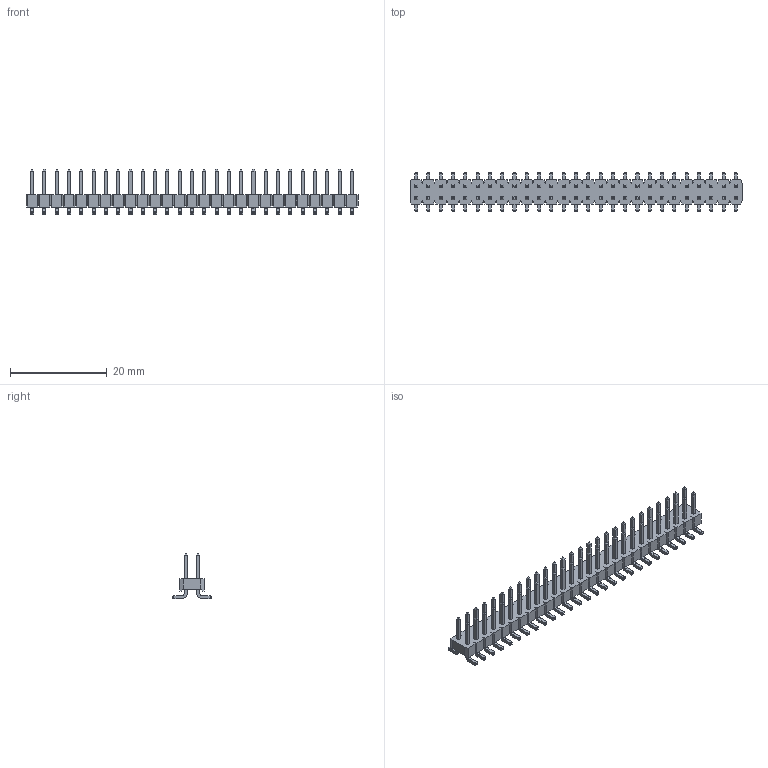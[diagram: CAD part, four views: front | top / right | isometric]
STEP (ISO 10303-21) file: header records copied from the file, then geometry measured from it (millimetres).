
FILE_DESCRIPTION(/* description */ (''),/* implementation_level */ '2;1');
FILE_NAME(/* name */ '961254-6300-XX-XX',/* time_stamp */ '2007-06-18T12:44:21+02:00',/* author */ (''),/* organization */ (''),/* preprocessor_version */ 'ST-DEVELOPER v9',/* originating_system */ 'UGS - NX 4.0',/* authorisation */ '');
FILE_SCHEMA (('AUTOMOTIVE_DESIGN { 1 0 10303 214 1 1 1 1 }'));
Length unit declared in the file: millimetre
Products named in the file (1): 961254-6300-XX-XX
Bounding box: 68.58 x 8 x 9.4 mm (x, y, z)
Volume: 915.3 mm3; surface area: 2398.5 mm2
Topology: 1 solids, 1 shells, 1462 faces, 3624 edges, 2272 vertices
Faces by surface type: plane 1138, cylinder 324
Entity records: 42288 total; most frequent: CARTESIAN_POINT 7359, ORIENTED_EDGE 7248, DIRECTION 6982, EDGE_CURVE 3624, LINE 3192, VECTOR 3192, VERTEX_POINT 2272, AXIS2_PLACEMENT_3D 1895
